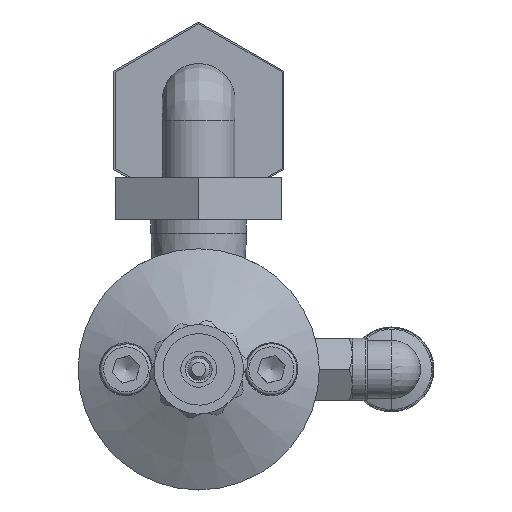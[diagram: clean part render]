
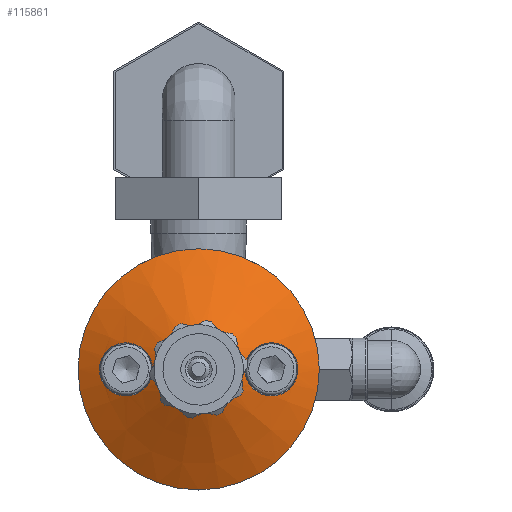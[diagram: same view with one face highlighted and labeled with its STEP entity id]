
A CAD part, front view. The second image highlights one B-rep face of the part: STEP entity #115861.
In plain terms, the highlighted conical face has half-angle 62 degrees and reference radius 9.128 mm.
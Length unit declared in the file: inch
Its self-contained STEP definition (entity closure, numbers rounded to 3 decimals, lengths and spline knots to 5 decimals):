
#114521=CARTESIAN_POINT('',(-0.1875,-0.814,0.0));
#114522=VERTEX_POINT('',#114521);
#114523=CARTESIAN_POINT('',(0.0,-0.814,0.0));
#114524=DIRECTION('',(0.0,1.0,0.0));
#114525=DIRECTION('',(-1.0,0.0,0.0));
#114526=AXIS2_PLACEMENT_3D('',#114523,#114524,#114525);
#114527=CIRCLE('',#114526,0.1875);
#114528=EDGE_CURVE('',#114522,#114522,#114527,.T.);
#114729=CARTESIAN_POINT('',(-0.53125,-0.63122,0.0));
#114730=VERTEX_POINT('',#114729);
#114731=CARTESIAN_POINT('',(0.0,-0.63122,0.0));
#114732=DIRECTION('',(0.0,1.0,0.0));
#114733=DIRECTION('',(-1.0,0.0,0.0));
#114734=AXIS2_PLACEMENT_3D('',#114731,#114732,#114733);
#114735=CIRCLE('',#114734,0.53125);
#114736=EDGE_CURVE('',#114730,#114730,#114735,.T.);
#114831=CARTESIAN_POINT('',(0.27722,-0.75533,-0.1089));
#114832=VERTEX_POINT('',#114831);
#114833=CARTESIAN_POINT('',(0.27722,-0.75533,-0.1089));
#114834=CARTESIAN_POINT('',(0.26661,-0.76139,-0.10473));
#114835=CARTESIAN_POINT('',(0.25575,-0.76798,-0.09857));
#114836=CARTESIAN_POINT('',(0.23644,-0.7805,-0.08284));
#114837=CARTESIAN_POINT('',(0.228,-0.78643,-0.07327));
#114838=CARTESIAN_POINT('',(0.21604,-0.79526,-0.05463));
#114839=CARTESIAN_POINT('',(0.21116,-0.79909,-0.04442));
#114840=CARTESIAN_POINT('',(0.20463,-0.80437,-0.02258));
#114841=CARTESIAN_POINT('',(0.203,-0.80576,-0.01092));
#114842=CARTESIAN_POINT('',(0.203,-0.80576,0.01092));
#114843=CARTESIAN_POINT('',(0.20463,-0.80437,0.02258));
#114844=CARTESIAN_POINT('',(0.21116,-0.79909,0.04442));
#114845=CARTESIAN_POINT('',(0.21604,-0.79526,0.05463));
#114846=CARTESIAN_POINT('',(0.228,-0.78643,0.07327));
#114847=CARTESIAN_POINT('',(0.23644,-0.7805,0.08284));
#114848=CARTESIAN_POINT('',(0.25575,-0.76798,0.09857));
#114849=CARTESIAN_POINT('',(0.26661,-0.76139,0.10473));
#114850=CARTESIAN_POINT('',(0.29386,-0.74582,0.11544));
#114851=CARTESIAN_POINT('',(0.31313,-0.73576,0.11836));
#114852=CARTESIAN_POINT('',(0.35127,-0.71732,0.11436));
#114853=CARTESIAN_POINT('',(0.37012,-0.70892,0.10743));
#114854=CARTESIAN_POINT('',(0.4006,-0.69588,0.08666));
#114855=CARTESIAN_POINT('',(0.41398,-0.69045,0.0723));
#114856=CARTESIAN_POINT('',(0.42763,-0.68501,0.04688));
#114857=CARTESIAN_POINT('',(0.43116,-0.68362,0.03777));
#114858=CARTESIAN_POINT('',(0.43584,-0.68179,0.01905));
#114859=CARTESIAN_POINT('',(0.437,-0.68134,0.00944));
#114860=CARTESIAN_POINT('',(0.437,-0.68134,-0.00944));
#114861=CARTESIAN_POINT('',(0.43584,-0.68179,-0.01905));
#114862=CARTESIAN_POINT('',(0.43116,-0.68362,-0.03777));
#114863=CARTESIAN_POINT('',(0.42763,-0.68501,-0.04688));
#114864=CARTESIAN_POINT('',(0.41398,-0.69045,-0.0723));
#114865=CARTESIAN_POINT('',(0.4006,-0.69588,-0.08666));
#114866=CARTESIAN_POINT('',(0.37012,-0.70892,-0.10743));
#114867=CARTESIAN_POINT('',(0.35127,-0.71732,-0.11436));
#114868=CARTESIAN_POINT('',(0.31313,-0.73576,-0.11836));
#114869=CARTESIAN_POINT('',(0.29386,-0.74582,-0.11544));
#114870=CARTESIAN_POINT('',(0.27722,-0.75533,-0.1089));
#114871=B_SPLINE_CURVE_WITH_KNOTS('',3,(#114833,#114834,#114835,#114836,#114837,#114838,#114839,#114840,#114841,#114842,#114843,#114844,#114845,#114846,#114847,#114848,#114849,#114850,#114851,#114852,#114853,#114854,#114855,#114856,#114857,#114858,#114859,#114860,#114861,#114862,#114863,#114864,#114865,#114866,#114867,#114868,#114869,#114870),.UNSPECIFIED.,.T.,.U.,(4,2,2,2,2,2,2,2,2,2,2,2,2,2,2,2,2,2,4),(0.0,0.0984,0.1968,0.28002,0.36324,0.44647,0.52969,0.62809,0.72648,0.88079,1.0351,1.17891,1.25081,1.32272,1.39462,1.46653,1.61034,1.76465,1.91895),.UNSPECIFIED.);
#114872=EDGE_CURVE('',#114832,#114832,#114871,.T.);
#114926=CARTESIAN_POINT('',(-0.27722,-0.75533,0.1089));
#114927=VERTEX_POINT('',#114926);
#114928=CARTESIAN_POINT('',(-0.27722,-0.75533,0.1089));
#114929=CARTESIAN_POINT('',(-0.26661,-0.76139,0.10473));
#114930=CARTESIAN_POINT('',(-0.25575,-0.76798,0.09857));
#114931=CARTESIAN_POINT('',(-0.23644,-0.7805,0.08284));
#114932=CARTESIAN_POINT('',(-0.228,-0.78643,0.07327));
#114933=CARTESIAN_POINT('',(-0.21604,-0.79526,0.05463));
#114934=CARTESIAN_POINT('',(-0.21116,-0.79909,0.04442));
#114935=CARTESIAN_POINT('',(-0.20463,-0.80437,0.02258));
#114936=CARTESIAN_POINT('',(-0.203,-0.80576,0.01092));
#114937=CARTESIAN_POINT('',(-0.203,-0.80576,-0.01092));
#114938=CARTESIAN_POINT('',(-0.20463,-0.80437,-0.02258));
#114939=CARTESIAN_POINT('',(-0.21116,-0.79909,-0.04442));
#114940=CARTESIAN_POINT('',(-0.21604,-0.79526,-0.05463));
#114941=CARTESIAN_POINT('',(-0.228,-0.78643,-0.07327));
#114942=CARTESIAN_POINT('',(-0.23644,-0.7805,-0.08284));
#114943=CARTESIAN_POINT('',(-0.25575,-0.76798,-0.09857));
#114944=CARTESIAN_POINT('',(-0.26661,-0.76139,-0.10473));
#114945=CARTESIAN_POINT('',(-0.29386,-0.74582,-0.11544));
#114946=CARTESIAN_POINT('',(-0.31313,-0.73576,-0.11836));
#114947=CARTESIAN_POINT('',(-0.35127,-0.71732,-0.11436));
#114948=CARTESIAN_POINT('',(-0.37012,-0.70892,-0.10743));
#114949=CARTESIAN_POINT('',(-0.4006,-0.69588,-0.08666));
#114950=CARTESIAN_POINT('',(-0.41398,-0.69045,-0.0723));
#114951=CARTESIAN_POINT('',(-0.42763,-0.68501,-0.04688));
#114952=CARTESIAN_POINT('',(-0.43116,-0.68362,-0.03777));
#114953=CARTESIAN_POINT('',(-0.43584,-0.68179,-0.01905));
#114954=CARTESIAN_POINT('',(-0.437,-0.68134,-0.00944));
#114955=CARTESIAN_POINT('',(-0.437,-0.68134,0.00944));
#114956=CARTESIAN_POINT('',(-0.43584,-0.68179,0.01905));
#114957=CARTESIAN_POINT('',(-0.43116,-0.68362,0.03777));
#114958=CARTESIAN_POINT('',(-0.42763,-0.68501,0.04688));
#114959=CARTESIAN_POINT('',(-0.41398,-0.69045,0.0723));
#114960=CARTESIAN_POINT('',(-0.4006,-0.69588,0.08666));
#114961=CARTESIAN_POINT('',(-0.37012,-0.70892,0.10743));
#114962=CARTESIAN_POINT('',(-0.35127,-0.71732,0.11436));
#114963=CARTESIAN_POINT('',(-0.31313,-0.73576,0.11836));
#114964=CARTESIAN_POINT('',(-0.29386,-0.74582,0.11544));
#114965=CARTESIAN_POINT('',(-0.27722,-0.75533,0.1089));
#114966=B_SPLINE_CURVE_WITH_KNOTS('',3,(#114928,#114929,#114930,#114931,#114932,#114933,#114934,#114935,#114936,#114937,#114938,#114939,#114940,#114941,#114942,#114943,#114944,#114945,#114946,#114947,#114948,#114949,#114950,#114951,#114952,#114953,#114954,#114955,#114956,#114957,#114958,#114959,#114960,#114961,#114962,#114963,#114964,#114965),.UNSPECIFIED.,.T.,.U.,(4,2,2,2,2,2,2,2,2,2,2,2,2,2,2,2,2,2,4),(0.0,0.0984,0.1968,0.28002,0.36324,0.44647,0.52969,0.62809,0.72648,0.88079,1.0351,1.17891,1.25081,1.32272,1.39462,1.46653,1.61034,1.76465,1.91895),.UNSPECIFIED.);
#114967=EDGE_CURVE('',#114927,#114927,#114966,.T.);
#115844=CARTESIAN_POINT('',(0.0,-0.72261,0.0));
#115845=DIRECTION('',(0.0,1.0,0.0));
#115846=DIRECTION('',(-1.0,0.0,0.0));
#115847=AXIS2_PLACEMENT_3D('',#115844,#115845,#115846);
#115848=CONICAL_SURFACE('',#115847,0.35937,62.);
#115849=ORIENTED_EDGE('',*,*,#114872,.T.);
#115850=EDGE_LOOP('',(#115849));
#115851=FACE_OUTER_BOUND('',#115850,.T.);
#115852=ORIENTED_EDGE('',*,*,#114967,.T.);
#115853=EDGE_LOOP('',(#115852));
#115854=FACE_BOUND('',#115853,.T.);
#115855=ORIENTED_EDGE('',*,*,#114736,.F.);
#115856=EDGE_LOOP('',(#115855));
#115857=FACE_BOUND('',#115856,.T.);
#115858=ORIENTED_EDGE('',*,*,#114528,.T.);
#115859=EDGE_LOOP('',(#115858));
#115860=FACE_BOUND('',#115859,.T.);
#115861=ADVANCED_FACE('',(#115851,#115854,#115857,#115860),#115848,.T.);
